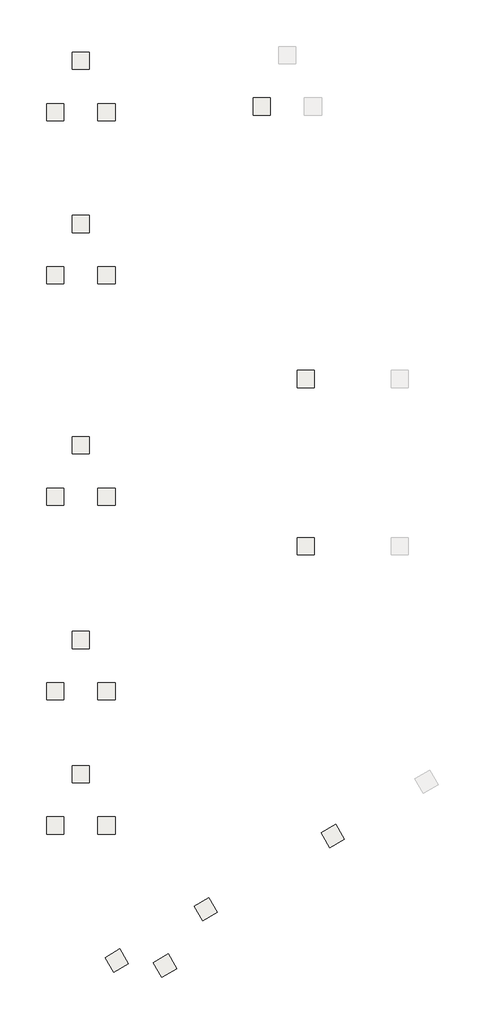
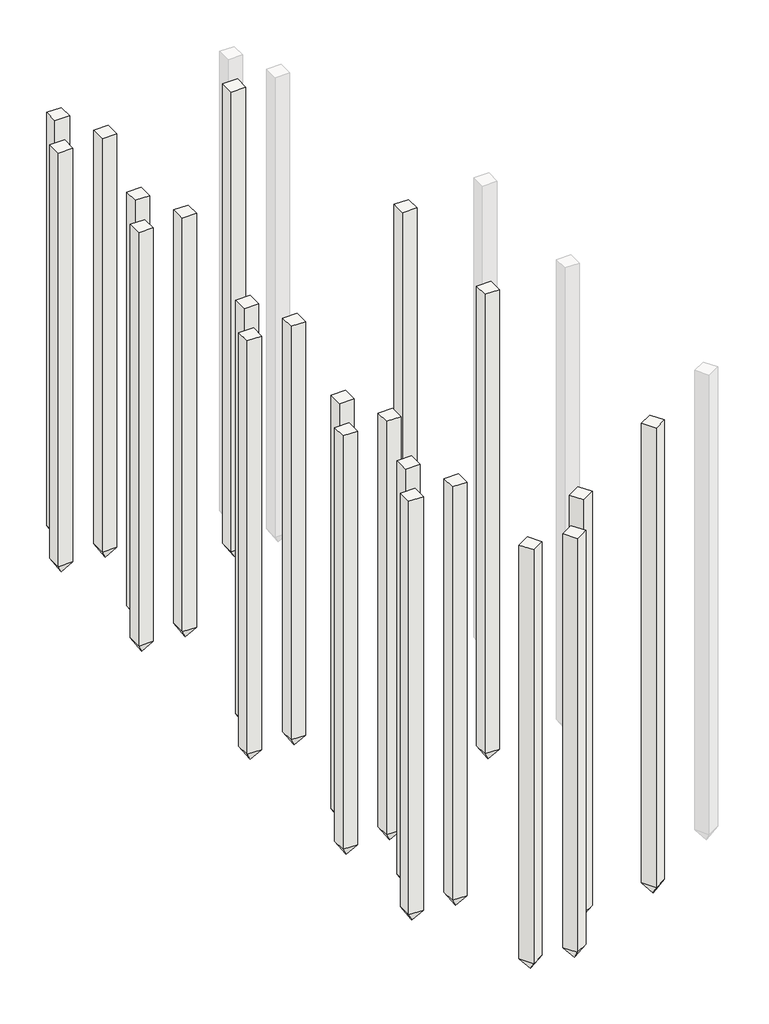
# One storey, part 1 of 2: 22 slabs.
"""IFC4 building model written with IfcOpenShell, lengths in millimetres."""

from ifc_helpers import new_model, si_unit, origin, place, context, project, spatial, faceted_brep, element, save

model = new_model("IFC4")

# Units and contexts
model_context = context("Model", 3, world=origin())
ifc_project = project(units=[si_unit("LENGTHUNIT", "METRE", prefix="MILLI")], contexts=[model_context])

# Site, building, storey
site = spatial("IfcSite", under=ifc_project)
building = spatial("IfcBuilding", under=site)
storey = spatial("IfcBuildingStorey", under=building, Name="+0.650 (Верх свай 4)", Elevation=650.0)

# Slabs
placement = place(None, origin())
element("IfcSlab", 1, ObjectType="Бетонная свая прямоугольного сечения : C100.30-9", at=placement, inside=storey, context=model_context, shape_type="Brep", body=[
    faceted_brep([(-17.2566477, 26226.0864916, 650.0), (-277.0642689, 26076.0864916, 650.0), (-127.0642689, 25816.2788705, 650.0), (132.7433523, 25966.2788705, 650.0), (-17.2566477, 26226.0864916, 600.0), (-17.2566477, 26226.0864916, 500.0), (-17.2566477, 26226.0864916, -9350.0), (-277.0642689, 26076.0864916, -9350.0), (-277.0642689, 26076.0864916, 500.0), (-277.0642689, 26076.0864916, 600.0), (-127.0642689, 25816.2788705, -9350.0), (-127.0642689, 25816.2788705, 500.0), (-127.0642689, 25816.2788705, 600.0), (132.7433523, 25966.2788705, -9350.0), (132.7433523, 25966.2788705, 500.0), (132.7433523, 25966.2788705, 600.0), (-71.9846321, 26021.7232636, -9600.0), (-71.5846321, 26021.0304433, -9600.0), (-72.2774524, 26020.6304433, -9600.0), (-72.6774524, 26021.3232636, -9600.0)], [[[0, 1, 2, 3]], [[1, 0, 4, 5, 6, 7, 8, 9]], [[2, 1, 9, 8, 7, 10, 11, 12]], [[3, 2, 12, 11, 10, 13, 14, 15]], [[0, 3, 15, 14, 13, 6, 5, 4]], [[16, 17, 18, 19]], [[17, 16, 6, 13]], [[18, 17, 13, 10]], [[19, 18, 10, 7]], [[16, 19, 7, 6]]]),
])
element("IfcSlab", 2, ObjectType="Бетонная свая прямоугольного сечения : C100.30-9", at=placement, inside=storey, context=model_context, shape_type="Brep", body=[
    faceted_brep([(-1166.9506055, 38954.4786856, 650.0), (-1466.9506055, 38954.4786856, 650.0), (-1466.9506055, 38654.4786856, 650.0), (-1166.9506055, 38654.4786856, 650.0), (-1166.9506055, 38954.4786856, 600.0), (-1166.9506055, 38954.4786856, 500.0), (-1166.9506055, 38954.4786856, -9350.0), (-1466.9506055, 38954.4786856, -9350.0), (-1466.9506055, 38954.4786856, 500.0), (-1466.9506055, 38954.4786856, 600.0), (-1466.9506055, 38654.4786856, -9350.0), (-1466.9506055, 38654.4786856, 500.0), (-1466.9506055, 38654.4786856, 600.0), (-1166.9506055, 38654.4786856, -9350.0), (-1166.9506055, 38654.4786856, 500.0), (-1166.9506055, 38654.4786856, 600.0), (-1316.5280443, 38804.8589307, -9600.0), (-1316.5280443, 38804.0589307, -9600.0), (-1317.3280443, 38804.0589307, -9600.0), (-1317.3280443, 38804.8589307, -9600.0)], [[[0, 1, 2, 3]], [[1, 0, 4, 5, 6, 7, 8, 9]], [[2, 1, 9, 8, 7, 10, 11, 12]], [[3, 2, 12, 11, 10, 13, 14, 15]], [[0, 3, 15, 14, 13, 6, 5, 4]], [[16, 17, 18, 19]], [[17, 16, 6, 13]], [[18, 17, 13, 10]], [[19, 18, 10, 7]], [[16, 19, 7, 6]]]),
])
element("IfcSlab", 3, ObjectType="Бетонная свая прямоугольного сечения : C100.30-9", at=placement, inside=storey, context=model_context, shape_type="Brep", body=[
    faceted_brep([(-396.5761769, 31244.4786844, 650.0), (-696.5761769, 31244.4786844, 650.0), (-696.5761769, 30944.4786844, 650.0), (-396.5761769, 30944.4786844, 650.0), (-396.5761769, 31244.4786844, 600.0), (-396.5761769, 31244.4786844, 500.0), (-396.5761769, 31244.4786844, -9350.0), (-696.5761769, 31244.4786844, -9350.0), (-696.5761769, 31244.4786844, 500.0), (-696.5761769, 31244.4786844, 600.0), (-696.5761769, 30944.4786844, -9350.0), (-696.5761769, 30944.4786844, 500.0), (-696.5761769, 30944.4786844, 600.0), (-396.5761769, 30944.4786844, -9350.0), (-396.5761769, 30944.4786844, 500.0), (-396.5761769, 30944.4786844, 600.0), (-546.1536157, 31094.8589295, -9600.0), (-546.1536157, 31094.0589295, -9600.0), (-546.9536157, 31094.0589295, -9600.0), (-546.9536157, 31094.8589295, -9600.0)], [[[0, 1, 2, 3]], [[1, 0, 4, 5, 6, 7, 8, 9]], [[2, 1, 9, 8, 7, 10, 11, 12]], [[3, 2, 12, 11, 10, 13, 14, 15]], [[0, 3, 15, 14, 13, 6, 5, 4]], [[16, 17, 18, 19]], [[17, 16, 6, 13]], [[18, 17, 13, 10]], [[19, 18, 10, 7]], [[16, 19, 7, 6]]]),
])
element("IfcSlab", 4, ObjectType="Бетонная свая прямоугольного сечения : C100.30-9", at=placement, inside=storey, context=model_context, shape_type="Brep", body=[
    faceted_brep([(-396.5761769, 34179.4786844, 650.0), (-696.5761769, 34179.4786844, 650.0), (-696.5761769, 33879.4786844, 650.0), (-396.5761769, 33879.4786844, 650.0), (-396.5761769, 34179.4786844, 600.0), (-396.5761769, 34179.4786844, 500.0), (-396.5761769, 34179.4786844, -9350.0), (-696.5761769, 34179.4786844, -9350.0), (-696.5761769, 34179.4786844, 500.0), (-696.5761769, 34179.4786844, 600.0), (-696.5761769, 33879.4786844, -9350.0), (-696.5761769, 33879.4786844, 500.0), (-696.5761769, 33879.4786844, 600.0), (-396.5761769, 33879.4786844, -9350.0), (-396.5761769, 33879.4786844, 500.0), (-396.5761769, 33879.4786844, 600.0), (-546.1536157, 34029.8589295, -9600.0), (-546.1536157, 34029.0589295, -9600.0), (-546.9536157, 34029.0589295, -9600.0), (-546.9536157, 34029.8589295, -9600.0)], [[[0, 1, 2, 3]], [[1, 0, 4, 5, 6, 7, 8, 9]], [[2, 1, 9, 8, 7, 10, 11, 12]], [[3, 2, 12, 11, 10, 13, 14, 15]], [[0, 3, 15, 14, 13, 6, 5, 4]], [[16, 17, 18, 19]], [[17, 16, 6, 13]], [[18, 17, 13, 10]], [[19, 18, 10, 7]], [[16, 19, 7, 6]]]),
])
element("IfcSlab", 5, ObjectType="Бетонная свая прямоугольного сечения : C90.30-8", at=placement, inside=storey, context=model_context, shape_type="Brep", body=[
    faceted_brep([(-3801.634083, 24040.7314657, 650.0), (-4061.4417042, 23890.7314657, 650.0), (-3911.4417042, 23630.9238446, 650.0), (-3651.634083, 23780.9238446, 650.0), (-3801.634083, 24040.7314657, 600.0), (-3801.634083, 24040.7314657, 500.0), (-3801.634083, 24040.7314657, -8350.0), (-4061.4417042, 23890.7314657, -8350.0), (-4061.4417042, 23890.7314657, 500.0), (-4061.4417042, 23890.7314657, 600.0), (-3911.4417042, 23630.9238446, -8350.0), (-3911.4417042, 23630.9238446, 500.0), (-3911.4417042, 23630.9238446, 600.0), (-3651.634083, 23780.9238446, -8350.0), (-3651.634083, 23780.9238446, 500.0), (-3651.634083, 23780.9238446, 600.0), (-3856.3620674, 23836.3682376, -8600.0), (-3855.9620674, 23835.6754173, -8600.0), (-3856.6548877, 23835.2754173, -8600.0), (-3857.0548877, 23835.9682376, -8600.0)], [[[0, 1, 2, 3]], [[1, 0, 4, 5, 6, 7, 8, 9]], [[2, 1, 9, 8, 7, 10, 11, 12]], [[3, 2, 12, 11, 10, 13, 14, 15]], [[0, 3, 15, 14, 13, 6, 5, 4]], [[16, 17, 18, 19]], [[17, 16, 6, 13]], [[18, 17, 13, 10]], [[19, 18, 10, 7]], [[16, 19, 7, 6]]]),
])
element("IfcSlab", 6, ObjectType="Бетонная свая прямоугольного сечения : C90.30-8", at=placement, inside=storey, context=model_context, shape_type="Brep", body=[
    faceted_brep([(-2954.0119989, 23952.8084302, 650.0), (-3213.8196201, 23802.8084302, 650.0), (-3063.8196201, 23543.000809, 650.0), (-2804.0119989, 23693.000809, 650.0), (-2954.0119989, 23952.8084302, 600.0), (-2954.0119989, 23952.8084302, 500.0), (-2954.0119989, 23952.8084302, -8350.0), (-3213.8196201, 23802.8084302, -8350.0), (-3213.8196201, 23802.8084302, 500.0), (-3213.8196201, 23802.8084302, 600.0), (-3063.8196201, 23543.000809, -8350.0), (-3063.8196201, 23543.000809, 500.0), (-3063.8196201, 23543.000809, 600.0), (-2804.0119989, 23693.000809, -8350.0), (-2804.0119989, 23693.000809, 500.0), (-2804.0119989, 23693.000809, 600.0), (-3008.7399833, 23748.4452021, -8600.0), (-3008.3399833, 23747.7523818, -8600.0), (-3009.0328036, 23747.3523818, -8600.0), (-3009.4328036, 23748.0452021, -8600.0)], [[[0, 1, 2, 3]], [[1, 0, 4, 5, 6, 7, 8, 9]], [[2, 1, 9, 8, 7, 10, 11, 12]], [[3, 2, 12, 11, 10, 13, 14, 15]], [[0, 3, 15, 14, 13, 6, 5, 4]], [[16, 17, 18, 19]], [[17, 16, 6, 13]], [[18, 17, 13, 10]], [[19, 18, 10, 7]], [[16, 19, 7, 6]]]),
])
element("IfcSlab", 7, ObjectType="Бетонная свая прямоугольного сечения : C90.30-8", at=placement, inside=storey, context=model_context, shape_type="Brep", body=[
    faceted_brep([(-2242.9088343, 24941.0400775, 650.0), (-2502.7164555, 24791.0400775, 650.0), (-2352.7164555, 24531.2324564, 650.0), (-2092.9088343, 24681.2324564, 650.0), (-2242.9088343, 24941.0400775, 600.0), (-2242.9088343, 24941.0400775, 500.0), (-2242.9088343, 24941.0400775, -8350.0), (-2502.7164555, 24791.0400775, -8350.0), (-2502.7164555, 24791.0400775, 500.0), (-2502.7164555, 24791.0400775, 600.0), (-2352.7164555, 24531.2324564, -8350.0), (-2352.7164555, 24531.2324564, 500.0), (-2352.7164555, 24531.2324564, 600.0), (-2092.9088343, 24681.2324564, -8350.0), (-2092.9088343, 24681.2324564, 500.0), (-2092.9088343, 24681.2324564, 600.0), (-2297.6368187, 24736.6768495, -8600.0), (-2297.2368187, 24735.9840292, -8600.0), (-2297.929639, 24735.5840292, -8600.0), (-2298.329639, 24736.2768495, -8600.0)], [[[0, 1, 2, 3]], [[1, 0, 4, 5, 6, 7, 8, 9]], [[2, 1, 9, 8, 7, 10, 11, 12]], [[3, 2, 12, 11, 10, 13, 14, 15]], [[0, 3, 15, 14, 13, 6, 5, 4]], [[16, 17, 18, 19]], [[17, 16, 6, 13]], [[18, 17, 13, 10]], [[19, 18, 10, 7]], [[16, 19, 7, 6]]]),
])
element("IfcSlab", 8, ObjectType="Бетонная свая прямоугольного сечения : C90.30-8", at=placement, inside=storey, context=model_context, shape_type="Brep", body=[
    faceted_brep([(-4786.7966631, 26354.4786849, 650.0), (-5086.7966631, 26354.4786849, 650.0), (-5086.7966631, 26054.4786849, 650.0), (-4786.7966631, 26054.4786849, 650.0), (-4786.7966631, 26354.4786849, 600.0), (-4786.7966631, 26354.4786849, 500.0), (-4786.7966631, 26354.4786849, -8350.0), (-5086.7966631, 26354.4786849, -8350.0), (-5086.7966631, 26354.4786849, 500.0), (-5086.7966631, 26354.4786849, 600.0), (-5086.7966631, 26054.4786849, -8350.0), (-5086.7966631, 26054.4786849, 500.0), (-5086.7966631, 26054.4786849, 600.0), (-4786.7966631, 26054.4786849, -8350.0), (-4786.7966631, 26054.4786849, 500.0), (-4786.7966631, 26054.4786849, 600.0), (-4936.3741019, 26204.85893, -8600.0), (-4936.3741019, 26204.05893, -8600.0), (-4937.1741019, 26204.05893, -8600.0), (-4937.1741019, 26204.85893, -8600.0)], [[[0, 1, 2, 3]], [[1, 0, 4, 5, 6, 7, 8, 9]], [[2, 1, 9, 8, 7, 10, 11, 12]], [[3, 2, 12, 11, 10, 13, 14, 15]], [[0, 3, 15, 14, 13, 6, 5, 4]], [[16, 17, 18, 19]], [[17, 16, 6, 13]], [[18, 17, 13, 10]], [[19, 18, 10, 7]], [[16, 19, 7, 6]]]),
])
element("IfcSlab", 9, ObjectType="Бетонная свая прямоугольного сечения : C90.30-8", at=placement, inside=storey, context=model_context, shape_type="Brep", body=[
    faceted_brep([(-4336.7966631, 27254.4786849, 650.0), (-4636.7966631, 27254.4786849, 650.0), (-4636.7966631, 26954.4786849, 650.0), (-4336.7966631, 26954.4786849, 650.0), (-4336.7966631, 27254.4786849, 600.0), (-4336.7966631, 27254.4786849, 500.0), (-4336.7966631, 27254.4786849, -8350.0), (-4636.7966631, 27254.4786849, -8350.0), (-4636.7966631, 27254.4786849, 500.0), (-4636.7966631, 27254.4786849, 600.0), (-4636.7966631, 26954.4786849, -8350.0), (-4636.7966631, 26954.4786849, 500.0), (-4636.7966631, 26954.4786849, 600.0), (-4336.7966631, 26954.4786849, -8350.0), (-4336.7966631, 26954.4786849, 500.0), (-4336.7966631, 26954.4786849, 600.0), (-4486.3741019, 27104.85893, -8600.0), (-4486.3741019, 27104.05893, -8600.0), (-4487.1741019, 27104.05893, -8600.0), (-4487.1741019, 27104.85893, -8600.0)], [[[0, 1, 2, 3]], [[1, 0, 4, 5, 6, 7, 8, 9]], [[2, 1, 9, 8, 7, 10, 11, 12]], [[3, 2, 12, 11, 10, 13, 14, 15]], [[0, 3, 15, 14, 13, 6, 5, 4]], [[16, 17, 18, 19]], [[17, 16, 6, 13]], [[18, 17, 13, 10]], [[19, 18, 10, 7]], [[16, 19, 7, 6]]]),
])
element("IfcSlab", 10, ObjectType="Бетонная свая прямоугольного сечения : C90.30-8", at=placement, inside=storey, context=model_context, shape_type="Brep", body=[
    faceted_brep([(-3886.7966625, 26354.4786842, 650.0), (-4186.7966625, 26354.4786842, 650.0), (-4186.7966625, 26054.4786842, 650.0), (-3886.7966625, 26054.4786842, 650.0), (-3886.7966625, 26354.4786842, 600.0), (-3886.7966625, 26354.4786842, 500.0), (-3886.7966625, 26354.4786842, -8350.0), (-4186.7966625, 26354.4786842, -8350.0), (-4186.7966625, 26354.4786842, 500.0), (-4186.7966625, 26354.4786842, 600.0), (-4186.7966625, 26054.4786842, -8350.0), (-4186.7966625, 26054.4786842, 500.0), (-4186.7966625, 26054.4786842, 600.0), (-3886.7966625, 26054.4786842, -8350.0), (-3886.7966625, 26054.4786842, 500.0), (-3886.7966625, 26054.4786842, 600.0), (-4036.3741012, 26204.8589293, -8600.0), (-4036.3741012, 26204.0589293, -8600.0), (-4037.1741012, 26204.0589293, -8600.0), (-4037.1741012, 26204.8589293, -8600.0)], [[[0, 1, 2, 3]], [[1, 0, 4, 5, 6, 7, 8, 9]], [[2, 1, 9, 8, 7, 10, 11, 12]], [[3, 2, 12, 11, 10, 13, 14, 15]], [[0, 3, 15, 14, 13, 6, 5, 4]], [[16, 17, 18, 19]], [[17, 16, 6, 13]], [[18, 17, 13, 10]], [[19, 18, 10, 7]], [[16, 19, 7, 6]]]),
])
element("IfcSlab", 11, ObjectType="Бетонная свая прямоугольного сечения : C90.30-8", at=placement, inside=storey, context=model_context, shape_type="Brep", body=[
    faceted_brep([(-4786.7963324, 28704.4786842, 650.0), (-5086.7963324, 28704.4786842, 650.0), (-5086.7963324, 28404.4786842, 650.0), (-4786.7963324, 28404.4786842, 650.0), (-4786.7963324, 28704.4786842, 600.0), (-4786.7963324, 28704.4786842, 500.0), (-4786.7963324, 28704.4786842, -8350.0), (-5086.7963324, 28704.4786842, -8350.0), (-5086.7963324, 28704.4786842, 500.0), (-5086.7963324, 28704.4786842, 600.0), (-5086.7963324, 28404.4786842, -8350.0), (-5086.7963324, 28404.4786842, 500.0), (-5086.7963324, 28404.4786842, 600.0), (-4786.7963324, 28404.4786842, -8350.0), (-4786.7963324, 28404.4786842, 500.0), (-4786.7963324, 28404.4786842, 600.0), (-4936.3737712, 28554.8589293, -8600.0), (-4936.3737712, 28554.0589293, -8600.0), (-4937.1737712, 28554.0589293, -8600.0), (-4937.1737712, 28554.8589293, -8600.0)], [[[0, 1, 2, 3]], [[1, 0, 4, 5, 6, 7, 8, 9]], [[2, 1, 9, 8, 7, 10, 11, 12]], [[3, 2, 12, 11, 10, 13, 14, 15]], [[0, 3, 15, 14, 13, 6, 5, 4]], [[16, 17, 18, 19]], [[17, 16, 6, 13]], [[18, 17, 13, 10]], [[19, 18, 10, 7]], [[16, 19, 7, 6]]]),
])
element("IfcSlab", 12, ObjectType="Бетонная свая прямоугольного сечения : C90.30-8", at=placement, inside=storey, context=model_context, shape_type="Brep", body=[
    faceted_brep([(-4336.7963324, 29604.4786842, 650.0), (-4636.7963324, 29604.4786842, 650.0), (-4636.7963324, 29304.4786842, 650.0), (-4336.7963324, 29304.4786842, 650.0), (-4336.7963324, 29604.4786842, 600.0), (-4336.7963324, 29604.4786842, 500.0), (-4336.7963324, 29604.4786842, -8350.0), (-4636.7963324, 29604.4786842, -8350.0), (-4636.7963324, 29604.4786842, 500.0), (-4636.7963324, 29604.4786842, 600.0), (-4636.7963324, 29304.4786842, -8350.0), (-4636.7963324, 29304.4786842, 500.0), (-4636.7963324, 29304.4786842, 600.0), (-4336.7963324, 29304.4786842, -8350.0), (-4336.7963324, 29304.4786842, 500.0), (-4336.7963324, 29304.4786842, 600.0), (-4486.3737712, 29454.8589293, -8600.0), (-4486.3737712, 29454.0589293, -8600.0), (-4487.1737712, 29454.0589293, -8600.0), (-4487.1737712, 29454.8589293, -8600.0)], [[[0, 1, 2, 3]], [[1, 0, 4, 5, 6, 7, 8, 9]], [[2, 1, 9, 8, 7, 10, 11, 12]], [[3, 2, 12, 11, 10, 13, 14, 15]], [[0, 3, 15, 14, 13, 6, 5, 4]], [[16, 17, 18, 19]], [[17, 16, 6, 13]], [[18, 17, 13, 10]], [[19, 18, 10, 7]], [[16, 19, 7, 6]]]),
])
element("IfcSlab", 13, ObjectType="Бетонная свая прямоугольного сечения : C90.30-8", at=placement, inside=storey, context=model_context, shape_type="Brep", body=[
    faceted_brep([(-3886.7963317, 28704.4786835, 650.0), (-4186.7963317, 28704.4786835, 650.0), (-4186.7963317, 28404.4786835, 650.0), (-3886.7963317, 28404.4786835, 650.0), (-3886.7963317, 28704.4786835, 600.0), (-3886.7963317, 28704.4786835, 500.0), (-3886.7963317, 28704.4786835, -8350.0), (-4186.7963317, 28704.4786835, -8350.0), (-4186.7963317, 28704.4786835, 500.0), (-4186.7963317, 28704.4786835, 600.0), (-4186.7963317, 28404.4786835, -8350.0), (-4186.7963317, 28404.4786835, 500.0), (-4186.7963317, 28404.4786835, 600.0), (-3886.7963317, 28404.4786835, -8350.0), (-3886.7963317, 28404.4786835, 500.0), (-3886.7963317, 28404.4786835, 600.0), (-4036.3737705, 28554.8589286, -8600.0), (-4036.3737705, 28554.0589286, -8600.0), (-4037.1737705, 28554.0589286, -8600.0), (-4037.1737705, 28554.8589286, -8600.0)], [[[0, 1, 2, 3]], [[1, 0, 4, 5, 6, 7, 8, 9]], [[2, 1, 9, 8, 7, 10, 11, 12]], [[3, 2, 12, 11, 10, 13, 14, 15]], [[0, 3, 15, 14, 13, 6, 5, 4]], [[16, 17, 18, 19]], [[17, 16, 6, 13]], [[18, 17, 13, 10]], [[19, 18, 10, 7]], [[16, 19, 7, 6]]]),
])
element("IfcSlab", 14, ObjectType="Бетонная свая прямоугольного сечения : C90.30-8", at=placement, inside=storey, context=model_context, shape_type="Brep", body=[
    faceted_brep([(-4786.7958846, 32114.4786842, 650.0), (-5086.7958846, 32114.4786842, 650.0), (-5086.7958846, 31814.4786842, 650.0), (-4786.7958846, 31814.4786842, 650.0), (-4786.7958846, 32114.4786842, 600.0), (-4786.7958846, 32114.4786842, 500.0), (-4786.7958846, 32114.4786842, -8350.0), (-5086.7958846, 32114.4786842, -8350.0), (-5086.7958846, 32114.4786842, 500.0), (-5086.7958846, 32114.4786842, 600.0), (-5086.7958846, 31814.4786842, -8350.0), (-5086.7958846, 31814.4786842, 500.0), (-5086.7958846, 31814.4786842, 600.0), (-4786.7958846, 31814.4786842, -8350.0), (-4786.7958846, 31814.4786842, 500.0), (-4786.7958846, 31814.4786842, 600.0), (-4936.3733234, 31964.8589293, -8600.0), (-4936.3733234, 31964.0589293, -8600.0), (-4937.1733234, 31964.0589293, -8600.0), (-4937.1733234, 31964.8589293, -8600.0)], [[[0, 1, 2, 3]], [[1, 0, 4, 5, 6, 7, 8, 9]], [[2, 1, 9, 8, 7, 10, 11, 12]], [[3, 2, 12, 11, 10, 13, 14, 15]], [[0, 3, 15, 14, 13, 6, 5, 4]], [[16, 17, 18, 19]], [[17, 16, 6, 13]], [[18, 17, 13, 10]], [[19, 18, 10, 7]], [[16, 19, 7, 6]]]),
])
element("IfcSlab", 15, ObjectType="Бетонная свая прямоугольного сечения : C90.30-8", at=placement, inside=storey, context=model_context, shape_type="Brep", body=[
    faceted_brep([(-4336.7958846, 33014.4786842, 650.0), (-4636.7958846, 33014.4786842, 650.0), (-4636.7958846, 32714.4786842, 650.0), (-4336.7958846, 32714.4786842, 650.0), (-4336.7958846, 33014.4786842, 600.0), (-4336.7958846, 33014.4786842, 500.0), (-4336.7958846, 33014.4786842, -8350.0), (-4636.7958846, 33014.4786842, -8350.0), (-4636.7958846, 33014.4786842, 500.0), (-4636.7958846, 33014.4786842, 600.0), (-4636.7958846, 32714.4786842, -8350.0), (-4636.7958846, 32714.4786842, 500.0), (-4636.7958846, 32714.4786842, 600.0), (-4336.7958846, 32714.4786842, -8350.0), (-4336.7958846, 32714.4786842, 500.0), (-4336.7958846, 32714.4786842, 600.0), (-4486.3733234, 32864.8589293, -8600.0), (-4486.3733234, 32864.0589293, -8600.0), (-4487.1733234, 32864.0589293, -8600.0), (-4487.1733234, 32864.8589293, -8600.0)], [[[0, 1, 2, 3]], [[1, 0, 4, 5, 6, 7, 8, 9]], [[2, 1, 9, 8, 7, 10, 11, 12]], [[3, 2, 12, 11, 10, 13, 14, 15]], [[0, 3, 15, 14, 13, 6, 5, 4]], [[16, 17, 18, 19]], [[17, 16, 6, 13]], [[18, 17, 13, 10]], [[19, 18, 10, 7]], [[16, 19, 7, 6]]]),
])
element("IfcSlab", 16, ObjectType="Бетонная свая прямоугольного сечения : C90.30-8", at=placement, inside=storey, context=model_context, shape_type="Brep", body=[
    faceted_brep([(-3886.795884, 32114.4786835, 650.0), (-4186.795884, 32114.4786835, 650.0), (-4186.795884, 31814.4786835, 650.0), (-3886.795884, 31814.4786835, 650.0), (-3886.795884, 32114.4786835, 600.0), (-3886.795884, 32114.4786835, 500.0), (-3886.795884, 32114.4786835, -8350.0), (-4186.795884, 32114.4786835, -8350.0), (-4186.795884, 32114.4786835, 500.0), (-4186.795884, 32114.4786835, 600.0), (-4186.795884, 31814.4786835, -8350.0), (-4186.795884, 31814.4786835, 500.0), (-4186.795884, 31814.4786835, 600.0), (-3886.795884, 31814.4786835, -8350.0), (-3886.795884, 31814.4786835, 500.0), (-3886.795884, 31814.4786835, 600.0), (-4036.3733227, 31964.8589286, -8600.0), (-4036.3733227, 31964.0589286, -8600.0), (-4037.1733227, 31964.0589286, -8600.0), (-4037.1733227, 31964.8589286, -8600.0)], [[[0, 1, 2, 3]], [[1, 0, 4, 5, 6, 7, 8, 9]], [[2, 1, 9, 8, 7, 10, 11, 12]], [[3, 2, 12, 11, 10, 13, 14, 15]], [[0, 3, 15, 14, 13, 6, 5, 4]], [[16, 17, 18, 19]], [[17, 16, 6, 13]], [[18, 17, 13, 10]], [[19, 18, 10, 7]], [[16, 19, 7, 6]]]),
])
element("IfcSlab", 17, ObjectType="Бетонная свая прямоугольного сечения : C90.30-8", at=placement, inside=storey, context=model_context, shape_type="Brep", body=[
    faceted_brep([(-4786.7949445, 38854.4786842, 650.0), (-5086.7949445, 38854.4786842, 650.0), (-5086.7949445, 38554.4786842, 650.0), (-4786.7949445, 38554.4786842, 650.0), (-4786.7949445, 38854.4786842, 600.0), (-4786.7949445, 38854.4786842, 500.0), (-4786.7949445, 38854.4786842, -8350.0), (-5086.7949445, 38854.4786842, -8350.0), (-5086.7949445, 38854.4786842, 500.0), (-5086.7949445, 38854.4786842, 600.0), (-5086.7949445, 38554.4786842, -8350.0), (-5086.7949445, 38554.4786842, 500.0), (-5086.7949445, 38554.4786842, 600.0), (-4786.7949445, 38554.4786842, -8350.0), (-4786.7949445, 38554.4786842, 500.0), (-4786.7949445, 38554.4786842, 600.0), (-4936.3723833, 38704.8589293, -8600.0), (-4936.3723833, 38704.0589293, -8600.0), (-4937.1723833, 38704.0589293, -8600.0), (-4937.1723833, 38704.8589293, -8600.0)], [[[0, 1, 2, 3]], [[1, 0, 4, 5, 6, 7, 8, 9]], [[2, 1, 9, 8, 7, 10, 11, 12]], [[3, 2, 12, 11, 10, 13, 14, 15]], [[0, 3, 15, 14, 13, 6, 5, 4]], [[16, 17, 18, 19]], [[17, 16, 6, 13]], [[18, 17, 13, 10]], [[19, 18, 10, 7]], [[16, 19, 7, 6]]]),
])
element("IfcSlab", 18, ObjectType="Бетонная свая прямоугольного сечения : C90.30-8", at=placement, inside=storey, context=model_context, shape_type="Brep", body=[
    faceted_brep([(-4336.7949445, 39754.4786842, 650.0), (-4636.7949445, 39754.4786842, 650.0), (-4636.7949445, 39454.4786842, 650.0), (-4336.7949445, 39454.4786842, 650.0), (-4336.7949445, 39754.4786842, 600.0), (-4336.7949445, 39754.4786842, 500.0), (-4336.7949445, 39754.4786842, -8350.0), (-4636.7949445, 39754.4786842, -8350.0), (-4636.7949445, 39754.4786842, 500.0), (-4636.7949445, 39754.4786842, 600.0), (-4636.7949445, 39454.4786842, -8350.0), (-4636.7949445, 39454.4786842, 500.0), (-4636.7949445, 39454.4786842, 600.0), (-4336.7949445, 39454.4786842, -8350.0), (-4336.7949445, 39454.4786842, 500.0), (-4336.7949445, 39454.4786842, 600.0), (-4486.3723833, 39604.8589293, -8600.0), (-4486.3723833, 39604.0589293, -8600.0), (-4487.1723833, 39604.0589293, -8600.0), (-4487.1723833, 39604.8589293, -8600.0)], [[[0, 1, 2, 3]], [[1, 0, 4, 5, 6, 7, 8, 9]], [[2, 1, 9, 8, 7, 10, 11, 12]], [[3, 2, 12, 11, 10, 13, 14, 15]], [[0, 3, 15, 14, 13, 6, 5, 4]], [[16, 17, 18, 19]], [[17, 16, 6, 13]], [[18, 17, 13, 10]], [[19, 18, 10, 7]], [[16, 19, 7, 6]]]),
])
element("IfcSlab", 19, ObjectType="Бетонная свая прямоугольного сечения : C90.30-8", at=placement, inside=storey, context=model_context, shape_type="Brep", body=[
    faceted_brep([(-3886.7949438, 38854.4786835, 650.0), (-4186.7949438, 38854.4786835, 650.0), (-4186.7949438, 38554.4786835, 650.0), (-3886.7949438, 38554.4786835, 650.0), (-3886.7949438, 38854.4786835, 600.0), (-3886.7949438, 38854.4786835, 500.0), (-3886.7949438, 38854.4786835, -8350.0), (-4186.7949438, 38854.4786835, -8350.0), (-4186.7949438, 38854.4786835, 500.0), (-4186.7949438, 38854.4786835, 600.0), (-4186.7949438, 38554.4786835, -8350.0), (-4186.7949438, 38554.4786835, 500.0), (-4186.7949438, 38554.4786835, 600.0), (-3886.7949438, 38554.4786835, -8350.0), (-3886.7949438, 38554.4786835, 500.0), (-3886.7949438, 38554.4786835, 600.0), (-4036.3723826, 38704.8589286, -8600.0), (-4036.3723826, 38704.0589286, -8600.0), (-4037.1723826, 38704.0589286, -8600.0), (-4037.1723826, 38704.8589286, -8600.0)], [[[0, 1, 2, 3]], [[1, 0, 4, 5, 6, 7, 8, 9]], [[2, 1, 9, 8, 7, 10, 11, 12]], [[3, 2, 12, 11, 10, 13, 14, 15]], [[0, 3, 15, 14, 13, 6, 5, 4]], [[16, 17, 18, 19]], [[17, 16, 6, 13]], [[18, 17, 13, 10]], [[19, 18, 10, 7]], [[16, 19, 7, 6]]]),
])
element("IfcSlab", 20, ObjectType="Бетонная свая прямоугольного сечения : C90.30-8", at=placement, inside=storey, context=model_context, shape_type="Brep", body=[
    faceted_brep([(-4786.7958846, 35994.4786842, 650.0), (-5086.7958846, 35994.4786842, 650.0), (-5086.7958846, 35694.4786842, 650.0), (-4786.7958846, 35694.4786842, 650.0), (-4786.7958846, 35994.4786842, 600.0), (-4786.7958846, 35994.4786842, 500.0), (-4786.7958846, 35994.4786842, -8350.0), (-5086.7958846, 35994.4786842, -8350.0), (-5086.7958846, 35994.4786842, 500.0), (-5086.7958846, 35994.4786842, 600.0), (-5086.7958846, 35694.4786842, -8350.0), (-5086.7958846, 35694.4786842, 500.0), (-5086.7958846, 35694.4786842, 600.0), (-4786.7958846, 35694.4786842, -8350.0), (-4786.7958846, 35694.4786842, 500.0), (-4786.7958846, 35694.4786842, 600.0), (-4936.3733234, 35844.8589293, -8600.0), (-4936.3733234, 35844.0589293, -8600.0), (-4937.1733234, 35844.0589293, -8600.0), (-4937.1733234, 35844.8589293, -8600.0)], [[[0, 1, 2, 3]], [[1, 0, 4, 5, 6, 7, 8, 9]], [[2, 1, 9, 8, 7, 10, 11, 12]], [[3, 2, 12, 11, 10, 13, 14, 15]], [[0, 3, 15, 14, 13, 6, 5, 4]], [[16, 17, 18, 19]], [[17, 16, 6, 13]], [[18, 17, 13, 10]], [[19, 18, 10, 7]], [[16, 19, 7, 6]]]),
])
element("IfcSlab", 21, ObjectType="Бетонная свая прямоугольного сечения : C90.30-8", at=placement, inside=storey, context=model_context, shape_type="Brep", body=[
    faceted_brep([(-4336.7958846, 36894.4786842, 650.0), (-4636.7958846, 36894.4786842, 650.0), (-4636.7958846, 36594.4786842, 650.0), (-4336.7958846, 36594.4786842, 650.0), (-4336.7958846, 36894.4786842, 600.0), (-4336.7958846, 36894.4786842, 500.0), (-4336.7958846, 36894.4786842, -8350.0), (-4636.7958846, 36894.4786842, -8350.0), (-4636.7958846, 36894.4786842, 500.0), (-4636.7958846, 36894.4786842, 600.0), (-4636.7958846, 36594.4786842, -8350.0), (-4636.7958846, 36594.4786842, 500.0), (-4636.7958846, 36594.4786842, 600.0), (-4336.7958846, 36594.4786842, -8350.0), (-4336.7958846, 36594.4786842, 500.0), (-4336.7958846, 36594.4786842, 600.0), (-4486.3733234, 36744.8589293, -8600.0), (-4486.3733234, 36744.0589293, -8600.0), (-4487.1733234, 36744.0589293, -8600.0), (-4487.1733234, 36744.8589293, -8600.0)], [[[0, 1, 2, 3]], [[1, 0, 4, 5, 6, 7, 8, 9]], [[2, 1, 9, 8, 7, 10, 11, 12]], [[3, 2, 12, 11, 10, 13, 14, 15]], [[0, 3, 15, 14, 13, 6, 5, 4]], [[16, 17, 18, 19]], [[17, 16, 6, 13]], [[18, 17, 13, 10]], [[19, 18, 10, 7]], [[16, 19, 7, 6]]]),
])
element("IfcSlab", 22, ObjectType="Бетонная свая прямоугольного сечения : C90.30-8", at=placement, inside=storey, context=model_context, shape_type="Brep", body=[
    faceted_brep([(-3886.795884, 35994.4786835, 650.0), (-4186.795884, 35994.4786835, 650.0), (-4186.795884, 35694.4786835, 650.0), (-3886.795884, 35694.4786835, 650.0), (-3886.795884, 35994.4786835, 600.0), (-3886.795884, 35994.4786835, 500.0), (-3886.795884, 35994.4786835, -8350.0), (-4186.795884, 35994.4786835, -8350.0), (-4186.795884, 35994.4786835, 500.0), (-4186.795884, 35994.4786835, 600.0), (-4186.795884, 35694.4786835, -8350.0), (-4186.795884, 35694.4786835, 500.0), (-4186.795884, 35694.4786835, 600.0), (-3886.795884, 35694.4786835, -8350.0), (-3886.795884, 35694.4786835, 500.0), (-3886.795884, 35694.4786835, 600.0), (-4036.3733227, 35844.8589286, -8600.0), (-4036.3733227, 35844.0589286, -8600.0), (-4037.1733227, 35844.0589286, -8600.0), (-4037.1733227, 35844.8589286, -8600.0)], [[[0, 1, 2, 3]], [[1, 0, 4, 5, 6, 7, 8, 9]], [[2, 1, 9, 8, 7, 10, 11, 12]], [[3, 2, 12, 11, 10, 13, 14, 15]], [[0, 3, 15, 14, 13, 6, 5, 4]], [[16, 17, 18, 19]], [[17, 16, 6, 13]], [[18, 17, 13, 10]], [[19, 18, 10, 7]], [[16, 19, 7, 6]]]),
])

save(model, "model.ifc")
